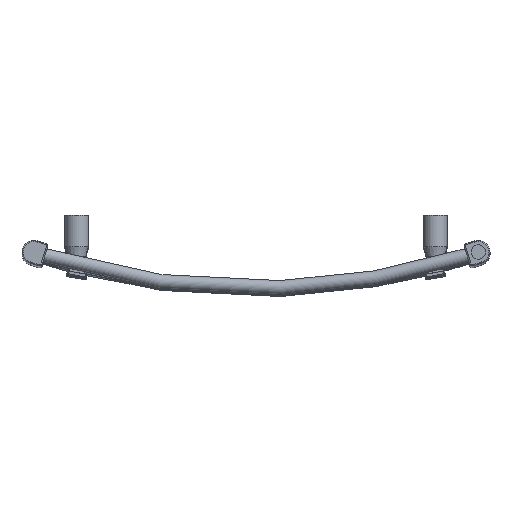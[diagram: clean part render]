
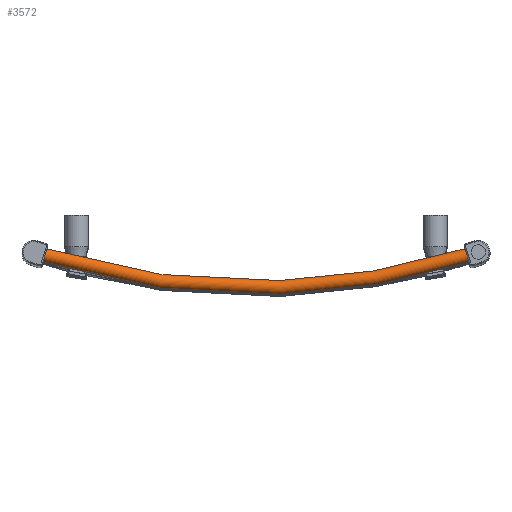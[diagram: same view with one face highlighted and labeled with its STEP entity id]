
A CAD part, top view. The second image highlights one B-rep face of the part: STEP entity #3572.
In plain terms, the highlighted toroidal (fillet/blend) face has major radius 900 mm and minor radius 9 mm.
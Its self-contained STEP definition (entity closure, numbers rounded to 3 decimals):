
#3545=CARTESIAN_POINT('',(0.,900.0,1449.));
#3546=DIRECTION('',(0.,0.,1.0));
#3547=DIRECTION('',(1.0,0.0,0.0));
#3548=AXIS2_PLACEMENT_3D('',#3545,#3546,#3547);
#3549=TOROIDAL_SURFACE('',#3548,900.0,9.);
#3550=CARTESIAN_POINT('',(267.988,50.257,1449.));
#3551=VERTEX_POINT('',#3550);
#3552=CARTESIAN_POINT('',(270.695,41.673,1449.));
#3553=DIRECTION('',(0.954,0.301,0.));
#3554=DIRECTION('',(0.301,-0.954,0.));
#3555=AXIS2_PLACEMENT_3D('',#3552,#3553,#3554);
#3556=CIRCLE('',#3555,9.);
#3557=EDGE_CURVE('',#3551,#3551,#3556,.T.);
#3558=ORIENTED_EDGE('',*,*,#3557,.F.);
#3559=EDGE_LOOP('',(#3558));
#3560=FACE_OUTER_BOUND('',#3559,.T.);
#3561=CARTESIAN_POINT('',(-267.988,50.257,1449.));
#3562=VERTEX_POINT('',#3561);
#3563=CARTESIAN_POINT('',(-270.695,41.673,1449.));
#3564=DIRECTION('',(-0.954,0.301,0.));
#3565=DIRECTION('',(-0.301,-0.954,0.));
#3566=AXIS2_PLACEMENT_3D('',#3563,#3564,#3565);
#3567=CIRCLE('',#3566,9.);
#3568=EDGE_CURVE('',#3562,#3562,#3567,.T.);
#3569=ORIENTED_EDGE('',*,*,#3568,.F.);
#3570=EDGE_LOOP('',(#3569));
#3571=FACE_BOUND('',#3570,.T.);
#3572=ADVANCED_FACE('',(#3560,#3571),#3549,.T.);
